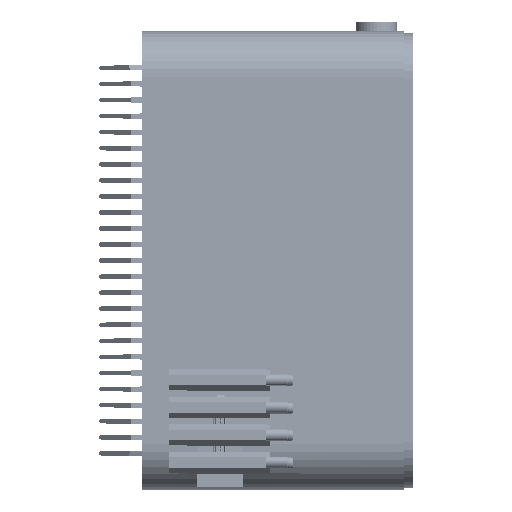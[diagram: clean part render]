
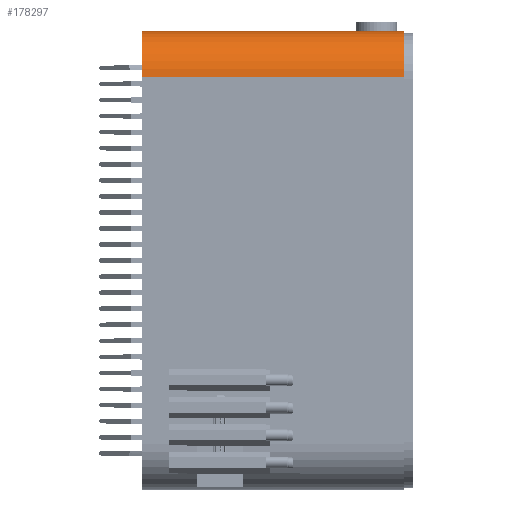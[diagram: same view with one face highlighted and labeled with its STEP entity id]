
A CAD part, left-side view. The second image highlights one B-rep face of the part: STEP entity #178297.
In plain terms, the highlighted cylindrical face has radius 10 mm (diameter 20 mm), a partial arc.
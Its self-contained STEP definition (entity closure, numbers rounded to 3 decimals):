
#31963 = DIRECTION ( 'NONE',  ( 0., 0., 1. ) ) ;
#37536 = CARTESIAN_POINT ( 'NONE',  ( 10., -10., 0. ) ) ;
#52062 = LINE ( 'NONE', #474688, #574950 ) ;
#75357 = VERTEX_POINT ( 'NONE', #37536 ) ;
#79362 = VECTOR ( 'NONE', #233436, 1000. ) ;
#100751 = AXIS2_PLACEMENT_3D ( 'NONE', #178279, #446865, #590696 ) ;
#113878 = CARTESIAN_POINT ( 'NONE',  ( 10., 47., -10. ) ) ;
#114149 = DIRECTION ( 'NONE',  ( 0., -1., 0. ) ) ;
#129888 = DIRECTION ( 'NONE',  ( 0., 1., 0. ) ) ;
#140181 = DIRECTION ( 'NONE',  ( 0., -1., 0. ) ) ;
#149706 = EDGE_CURVE ( 'NONE', #201995, #187073, #269512, .T. ) ;
#173953 = ORIENTED_EDGE ( 'NONE', *, *, #149706, .F. ) ;
#178279 = CARTESIAN_POINT ( 'NONE',  ( 10., 48., -10. ) ) ;
#178297 = ADVANCED_FACE ( 'NONE', ( #534686 ), #412929, .T. ) ;
#187073 = VERTEX_POINT ( 'NONE', #255960 ) ;
#201995 = VERTEX_POINT ( 'NONE', #440610 ) ;
#232303 = DIRECTION ( 'NONE',  ( 0., 0., -1. ) ) ;
#233436 = DIRECTION ( 'NONE',  ( 0., -1., 0. ) ) ;
#255960 = CARTESIAN_POINT ( 'NONE',  ( 10., 47., 0. ) ) ;
#258770 = EDGE_CURVE ( 'NONE', #187073, #75357, #279944, .T. ) ;
#261565 = CIRCLE ( 'NONE', #565865, 10. ) ;
#269512 = CIRCLE ( 'NONE', #559755, 10. ) ;
#275831 = CARTESIAN_POINT ( 'NONE',  ( 0., -10., -10. ) ) ;
#279944 = LINE ( 'NONE', #319601, #79362 ) ;
#319601 = CARTESIAN_POINT ( 'NONE',  ( 10., 48., 0. ) ) ;
#353485 = ORIENTED_EDGE ( 'NONE', *, *, #590742, .T. ) ;
#359208 = VERTEX_POINT ( 'NONE', #275831 ) ;
#372797 = EDGE_LOOP ( 'NONE', ( #353485, #488062, #450882, #173953 ) ) ;
#398874 = EDGE_CURVE ( 'NONE', #75357, #359208, #261565, .T. ) ;
#412929 = CYLINDRICAL_SURFACE ( 'NONE', #100751, 10. ) ;
#440610 = CARTESIAN_POINT ( 'NONE',  ( 0., 47., -10. ) ) ;
#446865 = DIRECTION ( 'NONE',  ( 0., -1., 0. ) ) ;
#450882 = ORIENTED_EDGE ( 'NONE', *, *, #258770, .F. ) ;
#474688 = CARTESIAN_POINT ( 'NONE',  ( 0., 48., -10. ) ) ;
#488062 = ORIENTED_EDGE ( 'NONE', *, *, #398874, .F. ) ;
#534686 = FACE_OUTER_BOUND ( 'NONE', #372797, .T. ) ;
#552654 = CARTESIAN_POINT ( 'NONE',  ( 10., -10., -10. ) ) ;
#559755 = AXIS2_PLACEMENT_3D ( 'NONE', #113878, #129888, #31963 ) ;
#565865 = AXIS2_PLACEMENT_3D ( 'NONE', #552654, #140181, #232303 ) ;
#574950 = VECTOR ( 'NONE', #114149, 1000. ) ;
#590696 = DIRECTION ( 'NONE',  ( 0., 0., -1. ) ) ;
#590742 = EDGE_CURVE ( 'NONE', #201995, #359208, #52062, .T. ) ;
